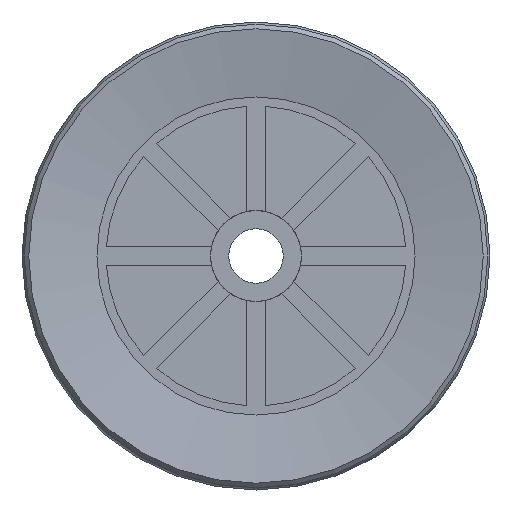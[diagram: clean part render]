
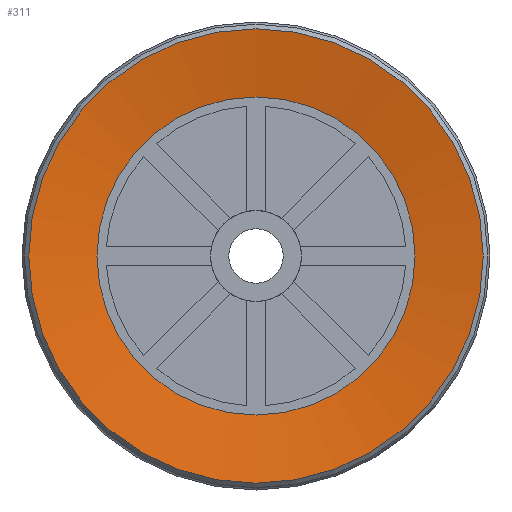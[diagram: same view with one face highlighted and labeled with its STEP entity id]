
A CAD part, front view. The second image highlights one B-rep face of the part: STEP entity #311.
In plain terms, the highlighted conical face has half-angle 80 degrees and reference radius 5 mm.
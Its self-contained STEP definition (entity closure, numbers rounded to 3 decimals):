
#311=ADVANCED_FACE('',(#469,#470),#471,.F.);
#469=FACE_BOUND('',#693,.T.);
#470=FACE_OUTER_BOUND('',#694,.T.);
#471=CONICAL_SURFACE('',#695,5.0,1.396);
#693=EDGE_LOOP('',(#1061));
#694=EDGE_LOOP('',(#1062));
#695=AXIS2_PLACEMENT_3D('',#1063,#1064,#1065);
#1061=ORIENTED_EDGE('',*,*,#1486,.T.);
#1062=ORIENTED_EDGE('',*,*,#1487,.F.);
#1063=CARTESIAN_POINT('',(0.0,0.,0.));
#1064=DIRECTION('',(0.0,0.,-1.0));
#1065=DIRECTION('',(0.0,1.0,0.));
#1486=EDGE_CURVE('',#1716,#1716,#1717,.T.);
#1487=EDGE_CURVE('',#1718,#1718,#1719,.T.);
#1716=VERTEX_POINT('',#2060);
#1717=CIRCLE('',#2061,3.5);
#1718=VERTEX_POINT('',#2062);
#1719=CIRCLE('',#2063,5.0);
#2060=CARTESIAN_POINT('',(0.0,-3.5,0.264));
#2061=AXIS2_PLACEMENT_3D('',#2403,#2404,#2405);
#2062=CARTESIAN_POINT('',(0.0,-5.0,0.));
#2063=AXIS2_PLACEMENT_3D('',#2406,#2407,#2408);
#2403=CARTESIAN_POINT('',(0.0,0.,0.264));
#2404=DIRECTION('',(0.0,0.,1.0));
#2405=DIRECTION('',(0.0,-1.0,0.));
#2406=CARTESIAN_POINT('',(0.0,0.,0.));
#2407=DIRECTION('',(0.0,0.,1.0));
#2408=DIRECTION('',(0.0,-1.0,0.));
